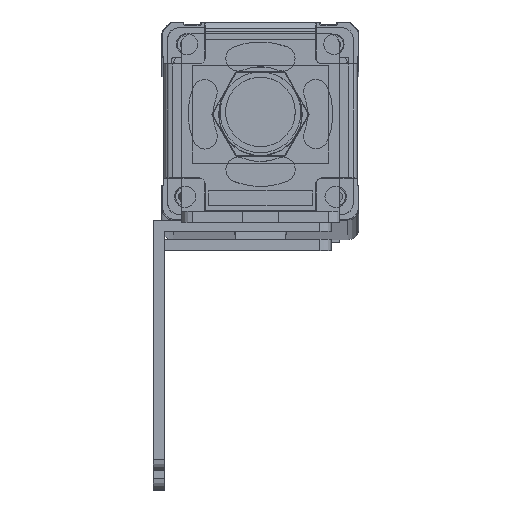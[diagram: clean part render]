
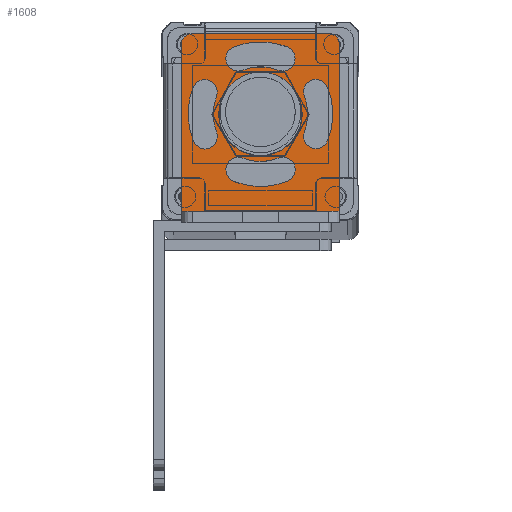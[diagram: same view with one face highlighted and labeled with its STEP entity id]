
A CAD part, top view. The second image highlights one B-rep face of the part: STEP entity #1608.
In plain terms, the highlighted planar face has unit normal (0, 0, 1).
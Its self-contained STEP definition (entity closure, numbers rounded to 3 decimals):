
#468=FACE_BOUND('',#3093,.T.);
#469=FACE_BOUND('',#3094,.T.);
#470=FACE_BOUND('',#3095,.T.);
#471=FACE_BOUND('',#3096,.T.);
#472=FACE_BOUND('',#3097,.T.);
#473=FACE_BOUND('',#3098,.T.);
#1044=CIRCLE('',#12269,7.5);
#1045=CIRCLE('',#12271,7.5);
#1046=CIRCLE('',#12273,2.);
#1047=CIRCLE('',#12274,2.);
#1048=CIRCLE('',#12275,8.5);
#1049=CIRCLE('',#12276,2.25);
#1050=CIRCLE('',#12277,13.);
#1051=CIRCLE('',#12278,2.25);
#1052=CIRCLE('',#12279,13.);
#1053=CIRCLE('',#12280,2.25);
#1054=CIRCLE('',#12281,8.5);
#1055=CIRCLE('',#12282,2.25);
#1056=CIRCLE('',#12283,13.);
#1057=CIRCLE('',#12284,2.25);
#1058=CIRCLE('',#12285,8.5);
#1059=CIRCLE('',#12286,2.25);
#1060=CIRCLE('',#12287,13.);
#1061=CIRCLE('',#12288,2.25);
#1062=CIRCLE('',#12289,8.5);
#1063=CIRCLE('',#12290,2.25);
#1608=ADVANCED_FACE('',(#468,#469,#470,#471,#472,#473),#1959,.T.);
#1959=PLANE('',#12291);
#3093=EDGE_LOOP('',(#6185,#6186,#6187,#6188,#6189,#6190));
#3094=EDGE_LOOP('',(#6191,#6192));
#3095=EDGE_LOOP('',(#6193,#6194,#6195,#6196));
#3096=EDGE_LOOP('',(#6197,#6198,#6199,#6200));
#3097=EDGE_LOOP('',(#6201,#6202,#6203,#6204));
#3098=EDGE_LOOP('',(#6205,#6206,#6207,#6208));
#6185=ORIENTED_EDGE('',*,*,#8996,.T.);
#6186=ORIENTED_EDGE('',*,*,#8997,.T.);
#6187=ORIENTED_EDGE('',*,*,#8998,.T.);
#6188=ORIENTED_EDGE('',*,*,#8999,.F.);
#6189=ORIENTED_EDGE('',*,*,#9000,.T.);
#6190=ORIENTED_EDGE('',*,*,#9001,.T.);
#6191=ORIENTED_EDGE('',*,*,#8995,.F.);
#6192=ORIENTED_EDGE('',*,*,#8993,.F.);
#6193=ORIENTED_EDGE('',*,*,#9002,.F.);
#6194=ORIENTED_EDGE('',*,*,#9003,.F.);
#6195=ORIENTED_EDGE('',*,*,#9004,.F.);
#6196=ORIENTED_EDGE('',*,*,#9005,.F.);
#6197=ORIENTED_EDGE('',*,*,#9006,.F.);
#6198=ORIENTED_EDGE('',*,*,#9007,.F.);
#6199=ORIENTED_EDGE('',*,*,#9008,.F.);
#6200=ORIENTED_EDGE('',*,*,#9009,.F.);
#6201=ORIENTED_EDGE('',*,*,#9010,.F.);
#6202=ORIENTED_EDGE('',*,*,#9011,.F.);
#6203=ORIENTED_EDGE('',*,*,#9012,.F.);
#6204=ORIENTED_EDGE('',*,*,#9013,.F.);
#6205=ORIENTED_EDGE('',*,*,#9014,.F.);
#6206=ORIENTED_EDGE('',*,*,#9015,.F.);
#6207=ORIENTED_EDGE('',*,*,#9016,.F.);
#6208=ORIENTED_EDGE('',*,*,#9017,.F.);
#7413=VERTEX_POINT('',#18716);
#7414=VERTEX_POINT('',#18718);
#7415=VERTEX_POINT('',#18724);
#7416=VERTEX_POINT('',#18725);
#7417=VERTEX_POINT('',#18727);
#7418=VERTEX_POINT('',#18729);
#7419=VERTEX_POINT('',#18731);
#7420=VERTEX_POINT('',#18733);
#7421=VERTEX_POINT('',#18736);
#7422=VERTEX_POINT('',#18737);
#7423=VERTEX_POINT('',#18739);
#7424=VERTEX_POINT('',#18741);
#7425=VERTEX_POINT('',#18744);
#7426=VERTEX_POINT('',#18745);
#7427=VERTEX_POINT('',#18747);
#7428=VERTEX_POINT('',#18749);
#7429=VERTEX_POINT('',#18752);
#7430=VERTEX_POINT('',#18753);
#7431=VERTEX_POINT('',#18755);
#7432=VERTEX_POINT('',#18757);
#7433=VERTEX_POINT('',#18760);
#7434=VERTEX_POINT('',#18761);
#7435=VERTEX_POINT('',#18763);
#7436=VERTEX_POINT('',#18765);
#8993=EDGE_CURVE('',#7413,#7414,#1044,.T.);
#8995=EDGE_CURVE('',#7414,#7413,#1045,.T.);
#8996=EDGE_CURVE('',#7415,#7416,#10119,.T.);
#8997=EDGE_CURVE('',#7416,#7417,#1046,.T.);
#8998=EDGE_CURVE('',#7417,#7418,#10120,.T.);
#8999=EDGE_CURVE('',#7419,#7418,#10121,.T.);
#9000=EDGE_CURVE('',#7419,#7420,#10122,.T.);
#9001=EDGE_CURVE('',#7420,#7415,#1047,.T.);
#9002=EDGE_CURVE('',#7421,#7422,#1048,.T.);
#9003=EDGE_CURVE('',#7423,#7421,#1049,.T.);
#9004=EDGE_CURVE('',#7424,#7423,#1050,.T.);
#9005=EDGE_CURVE('',#7422,#7424,#1051,.T.);
#9006=EDGE_CURVE('',#7425,#7426,#1052,.T.);
#9007=EDGE_CURVE('',#7427,#7425,#1053,.T.);
#9008=EDGE_CURVE('',#7428,#7427,#1054,.T.);
#9009=EDGE_CURVE('',#7426,#7428,#1055,.T.);
#9010=EDGE_CURVE('',#7429,#7430,#1056,.T.);
#9011=EDGE_CURVE('',#7431,#7429,#1057,.T.);
#9012=EDGE_CURVE('',#7432,#7431,#1058,.T.);
#9013=EDGE_CURVE('',#7430,#7432,#1059,.T.);
#9014=EDGE_CURVE('',#7433,#7434,#1060,.T.);
#9015=EDGE_CURVE('',#7435,#7433,#1061,.T.);
#9016=EDGE_CURVE('',#7436,#7435,#1062,.T.);
#9017=EDGE_CURVE('',#7434,#7436,#1063,.T.);
#10119=LINE('',#18723,#11208);
#10120=LINE('',#18728,#11209);
#10121=LINE('',#18730,#11210);
#10122=LINE('',#18732,#11211);
#11208=VECTOR('',#15423,1.);
#11209=VECTOR('',#15426,1.);
#11210=VECTOR('',#15427,1.);
#11211=VECTOR('',#15428,1.);
#12269=AXIS2_PLACEMENT_3D('',#18717,#15414,#15415);
#12271=AXIS2_PLACEMENT_3D('',#18721,#15419,#15420);
#12273=AXIS2_PLACEMENT_3D('',#18726,#15424,#15425);
#12274=AXIS2_PLACEMENT_3D('',#18734,#15429,#15430);
#12275=AXIS2_PLACEMENT_3D('',#18735,#15431,#15432);
#12276=AXIS2_PLACEMENT_3D('',#18738,#15433,#15434);
#12277=AXIS2_PLACEMENT_3D('',#18740,#15435,#15436);
#12278=AXIS2_PLACEMENT_3D('',#18742,#15437,#15438);
#12279=AXIS2_PLACEMENT_3D('',#18743,#15439,#15440);
#12280=AXIS2_PLACEMENT_3D('',#18746,#15441,#15442);
#12281=AXIS2_PLACEMENT_3D('',#18748,#15443,#15444);
#12282=AXIS2_PLACEMENT_3D('',#18750,#15445,#15446);
#12283=AXIS2_PLACEMENT_3D('',#18751,#15447,#15448);
#12284=AXIS2_PLACEMENT_3D('',#18754,#15449,#15450);
#12285=AXIS2_PLACEMENT_3D('',#18756,#15451,#15452);
#12286=AXIS2_PLACEMENT_3D('',#18758,#15453,#15454);
#12287=AXIS2_PLACEMENT_3D('',#18759,#15455,#15456);
#12288=AXIS2_PLACEMENT_3D('',#18762,#15457,#15458);
#12289=AXIS2_PLACEMENT_3D('',#18764,#15459,#15460);
#12290=AXIS2_PLACEMENT_3D('',#18766,#15461,#15462);
#12291=AXIS2_PLACEMENT_3D('',#18767,#15463,#15464);
#15414=DIRECTION('',(0.,0.,1.));
#15415=DIRECTION('',(-1.,-0.002,0.));
#15419=DIRECTION('',(0.,0.,1.));
#15420=DIRECTION('',(1.,0.002,0.));
#15423=DIRECTION('',(-1.,-0.002,0.));
#15424=DIRECTION('',(0.,0.,1.));
#15425=DIRECTION('',(-0.002,1.,0.));
#15426=DIRECTION('',(0.002,-1.,0.));
#15427=DIRECTION('',(-1.,-0.002,0.));
#15428=DIRECTION('',(-0.002,1.,0.));
#15429=DIRECTION('',(0.,0.,1.));
#15430=DIRECTION('',(1.,0.002,0.));
#15431=DIRECTION('',(0.,0.,-1.));
#15432=DIRECTION('',(0.928,0.374,0.));
#15433=DIRECTION('',(0.,0.,1.));
#15434=DIRECTION('',(0.928,0.374,0.));
#15435=DIRECTION('',(0.,0.,1.));
#15436=DIRECTION('',(0.929,-0.371,0.));
#15437=DIRECTION('',(0.,0.,1.));
#15438=DIRECTION('',(-0.929,0.371,0.));
#15439=DIRECTION('',(0.,0.,1.));
#15440=DIRECTION('',(-0.929,0.371,0.));
#15441=DIRECTION('',(0.,0.,1.));
#15442=DIRECTION('',(0.929,-0.371,0.));
#15443=DIRECTION('',(0.,0.,-1.));
#15444=DIRECTION('',(-0.928,-0.374,0.));
#15445=DIRECTION('',(0.,0.,1.));
#15446=DIRECTION('',(-0.928,-0.374,0.));
#15447=DIRECTION('',(0.,0.,1.));
#15448=DIRECTION('',(-0.371,-0.929,0.));
#15449=DIRECTION('',(0.,0.,1.));
#15450=DIRECTION('',(0.371,0.929,0.));
#15451=DIRECTION('',(0.,0.,-1.));
#15452=DIRECTION('',(0.374,-0.928,0.));
#15453=DIRECTION('',(0.,0.,1.));
#15454=DIRECTION('',(0.374,-0.928,0.));
#15455=DIRECTION('',(0.,0.,1.));
#15456=DIRECTION('',(0.371,0.929,0.));
#15457=DIRECTION('',(0.,0.,1.));
#15458=DIRECTION('',(-0.371,-0.929,0.));
#15459=DIRECTION('',(0.,0.,-1.));
#15460=DIRECTION('',(-0.374,0.928,0.));
#15461=DIRECTION('',(0.,0.,1.));
#15462=DIRECTION('',(-0.374,0.928,0.));
#15463=DIRECTION('',(0.,0.,1.));
#15464=DIRECTION('',(1.,0.002,0.));
#18716=CARTESIAN_POINT('',(243.846,-38.579,283.445));
#18717=CARTESIAN_POINT('',(251.346,-38.566,283.445));
#18718=CARTESIAN_POINT('',(258.846,-38.553,283.445));
#18721=CARTESIAN_POINT('',(251.346,-38.566,283.445));
#18723=CARTESIAN_POINT('',(263.572,-24.045,283.445));
#18724=CARTESIAN_POINT('',(263.572,-24.045,283.445));
#18725=CARTESIAN_POINT('',(239.072,-24.087,283.445));
#18726=CARTESIAN_POINT('',(239.075,-26.087,283.445));
#18727=CARTESIAN_POINT('',(237.075,-26.09,283.445));
#18728=CARTESIAN_POINT('',(237.075,-26.09,283.445));
#18729=CARTESIAN_POINT('',(237.126,-56.09,283.445));
#18730=CARTESIAN_POINT('',(265.626,-56.042,283.445));
#18731=CARTESIAN_POINT('',(265.626,-56.042,283.445));
#18732=CARTESIAN_POINT('',(265.626,-56.042,283.445));
#18733=CARTESIAN_POINT('',(265.575,-26.042,283.445));
#18734=CARTESIAN_POINT('',(263.575,-26.045,283.445));
#18735=CARTESIAN_POINT('',(251.346,-38.566,283.445));
#18736=CARTESIAN_POINT('',(259.231,-35.39,283.445));
#18737=CARTESIAN_POINT('',(259.241,-41.715,283.445));
#18738=CARTESIAN_POINT('',(261.318,-34.549,283.445));
#18739=CARTESIAN_POINT('',(263.405,-33.708,283.445));
#18740=CARTESIAN_POINT('',(251.346,-38.566,283.445));
#18741=CARTESIAN_POINT('',(263.421,-43.383,283.445));
#18742=CARTESIAN_POINT('',(261.331,-42.549,283.445));
#18743=CARTESIAN_POINT('',(251.346,-38.566,283.445));
#18744=CARTESIAN_POINT('',(239.272,-33.749,283.445));
#18745=CARTESIAN_POINT('',(239.288,-43.423,283.445));
#18746=CARTESIAN_POINT('',(241.362,-34.583,283.445));
#18747=CARTESIAN_POINT('',(243.451,-35.416,283.445));
#18748=CARTESIAN_POINT('',(251.346,-38.566,283.445));
#18749=CARTESIAN_POINT('',(243.462,-41.742,283.445));
#18750=CARTESIAN_POINT('',(241.375,-42.583,283.445));
#18751=CARTESIAN_POINT('',(251.346,-38.566,283.445));
#18752=CARTESIAN_POINT('',(246.529,-50.641,283.445));
#18753=CARTESIAN_POINT('',(256.204,-50.624,283.445));
#18754=CARTESIAN_POINT('',(247.363,-48.551,283.445));
#18755=CARTESIAN_POINT('',(248.197,-46.461,283.445));
#18756=CARTESIAN_POINT('',(251.346,-38.566,283.445));
#18757=CARTESIAN_POINT('',(254.522,-46.45,283.445));
#18758=CARTESIAN_POINT('',(255.363,-48.537,283.445));
#18759=CARTESIAN_POINT('',(251.346,-38.566,283.445));
#18760=CARTESIAN_POINT('',(256.163,-26.491,283.445));
#18761=CARTESIAN_POINT('',(246.489,-26.508,283.445));
#18762=CARTESIAN_POINT('',(255.33,-28.581,283.445));
#18763=CARTESIAN_POINT('',(254.496,-30.671,283.445));
#18764=CARTESIAN_POINT('',(251.346,-38.566,283.445));
#18765=CARTESIAN_POINT('',(248.17,-30.682,283.445));
#18766=CARTESIAN_POINT('',(247.33,-28.595,283.445));
#18767=CARTESIAN_POINT('',(251.346,-38.566,283.445));
